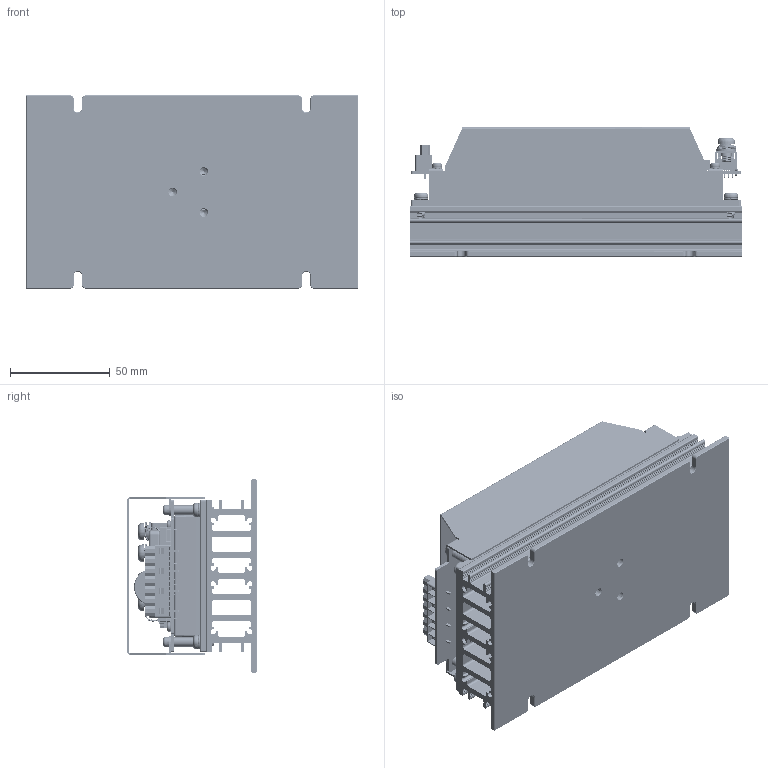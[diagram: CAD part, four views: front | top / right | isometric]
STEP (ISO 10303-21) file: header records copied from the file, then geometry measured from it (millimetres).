
FILE_DESCRIPTION (( 'STEP AP203' ), '1' );
FILE_NAME ('CHB300-300S CMFD HS 5V 2024.04.22.STEP', '2024-04-26T09:16:50', ( '' ), ( '' ), 'SwSTEP 2.0', 'SolidWorks 2020', '' );
FILE_SCHEMA (( 'CONFIG_CONTROL_DESIGN' ));
Products named in the file (1): CHB300-300S CMFD HS 5V 2024.04.22
Bounding box: 166 x 64.9 x 96.52 mm (x, y, z)
Volume: 305670.5 mm3; surface area: 217489.4 mm2
Topology: 12 solids, 42 shells, 3357 faces, 11535 edges, 7571 vertices
Faces by surface type: plane 1828, cylinder 936, bspline 330, cone 137, torus 87, sphere 39
Full cylindrical faces by diameter (mm): 0.7 x16, 0.78 x2, 0.8 x4, 1 x13, 1.2 x5, 1.5 x2, 2 x5, 2.2 x8, 2.9 x8, 3 x7, 3.2 x10, 3.239 x3, 3.25 x1, 3.264 x1, 3.8 x4, 3.9 x27, 4 x5, 4.2 x4, 4.3 x4, 4.45 x4, 4.5 x4, 4.6 x4, 4.7 x8, 5 x12, 5.3 x4, 5.5 x4, 7 x4, 10 x4, 12 x1, 12.8 x1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
Entity records: 260950 total; most frequent: CARTESIAN_POINT 170955, ORIENTED_EDGE 21930, DIRECTION 14929, EDGE_CURVE 10965, VERTEX_POINT 7371, LINE 5119, VECTOR 5119, AXIS2_PLACEMENT_3D 4905
